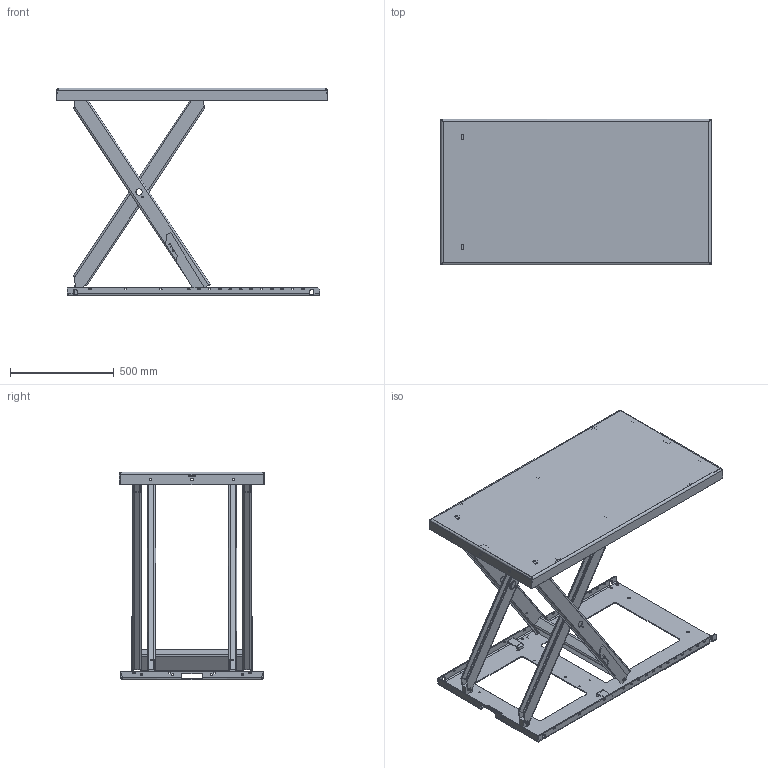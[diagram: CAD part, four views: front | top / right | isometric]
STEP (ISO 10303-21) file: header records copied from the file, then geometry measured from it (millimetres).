
FILE_DESCRIPTION(/* description */ ('TL 1000 (1300x700)'),/* implementation_level */ '2;1');
FILE_NAME(/* name */ 'C:\Autodesk_VaultWork\Ritningar\tmp\34964_Raised.stp',/* time_stamp */ '2018-04-25T13:05:32+02:00',/* author */ ('johso'),/* organization */ (''),/* preprocessor_version */ 'ST-DEVELOPER v16.5',/* originating_system */ 'Autodesk Inventor 2017',/* authorisation */ '');
FILE_SCHEMA (('AUTOMOTIVE_DESIGN { 1 0 10303 214 3 1 1 }'));
Length unit declared in the file: millimetre
Products named in the file (16): 34964.tmp; 611364; 611365; 44681; 34977; 32903; 82154 - 490; 34827; 34815; 34816; 34819; 34818; 45258; 42394; 83212; 32954
Assembly tree (26 placements, depth 4):
  34964.tmp
    611364
      611365
      45258  x2
      44681  x2
    34977
      32903
        82154 - 490
        34827  x2
      34815
        34816  x2
    34819
      34818
      45258  x2
      42394  x2
      83212  x4
    32954  x2
Bounding box: 1300 x 700 x 1000 mm (x, y, z)
Volume: 13196572.5 mm3; surface area: 5642565.5 mm2
Topology: 21 solids, 21 shells, 1095 faces, 3044 edges, 1991 vertices
Faces by surface type: plane 548, cylinder 473, bspline 46, cone 28
Full cylindrical faces by diameter (mm): 5.55 x2, 6.8 x8, 7.4 x6, 8 x4, 10 x4, 10.2 x16, 10.5 x4, 11.63 x4, 12.5 x6, 13 x10, 17 x2, 20.1 x4, 30.2 x4, 42.8 x4
Entity records: 28268 total; most frequent: CARTESIAN_POINT 6176, ORIENTED_EDGE 4520, DIRECTION 4439, EDGE_CURVE 2260, VERTEX_POINT 1511, AXIS2_PLACEMENT_3D 1504, LINE 1431, VECTOR 1431
